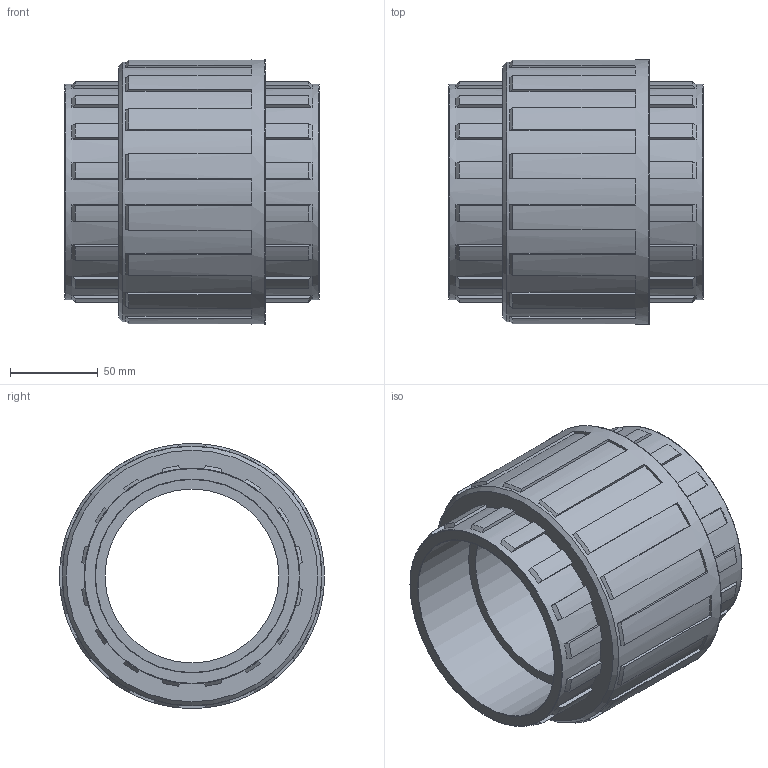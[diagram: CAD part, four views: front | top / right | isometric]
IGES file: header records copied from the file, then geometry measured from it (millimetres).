
Global section: file name: 050801040.ipt; native system: Autodesk Inventor 2015; preprocessor: unknown; author: KIM; date: 20171207.164938; units: millimetre
Bounding box: 145 x 151 x 151 mm (x, y, z)
Volume: 942368.4 mm3; surface area: 136787 mm2
Topology: 1 solids, 1 shells, 211 faces, 625 edges, 420 vertices
Faces by surface type: plane 118, cone 49, cylinder 36, revolution 8
Full cylindrical faces by diameter (mm): 122.785 x2, 147.98 x1, 151 x1
